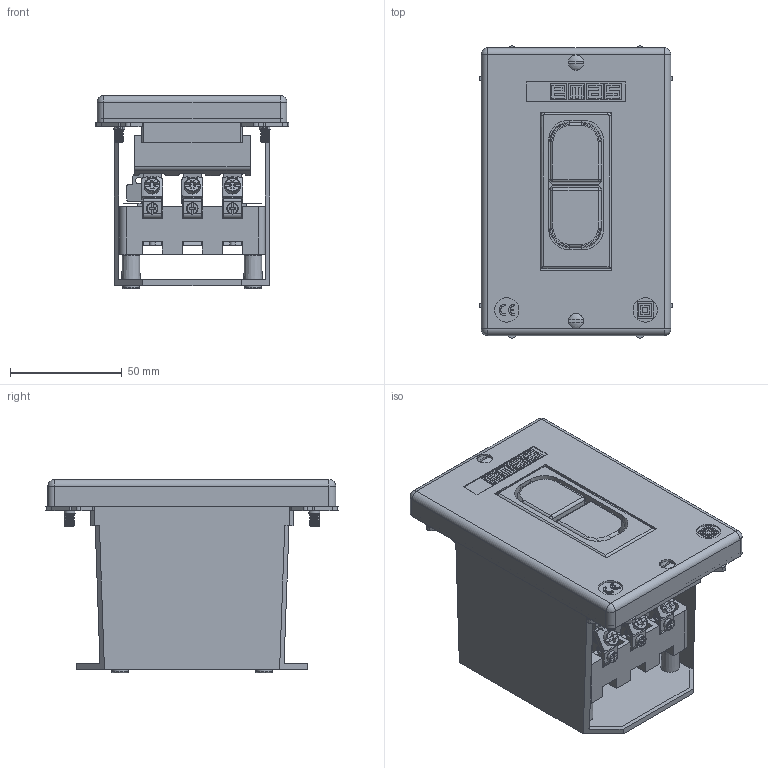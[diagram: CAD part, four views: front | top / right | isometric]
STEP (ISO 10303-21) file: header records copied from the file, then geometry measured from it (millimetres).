
FILE_DESCRIPTION((''),'2; 1');
FILE_NAME('','2026-03-27T11:28:13',(''),(''),'CST STEP Exporter V1.0','Unknown','');
FILE_SCHEMA(('CONFIG_CONTROL_DESIGN'));
Length unit declared in the file: metre
Assembly tree (109 placements, depth 2):
  (unnamed)
    (unnamed)
    (unnamed)
    (unnamed)
    (unnamed)
    (unnamed)
    (unnamed)
    (unnamed)
    (unnamed)
    (unnamed)
    (unnamed)
    (unnamed)
    (unnamed)
    (unnamed)
    (unnamed)
    (unnamed)
    (unnamed)
    (unnamed)
    (unnamed)
    (unnamed)
    (unnamed)
    (unnamed)
    (unnamed)
    (unnamed)
    (unnamed)
    (unnamed)
    (unnamed)
    (unnamed)
    (unnamed)
    (unnamed)
    (unnamed)
    (unnamed)
    (unnamed)
    (unnamed)
    (unnamed)
    (unnamed)
    (unnamed)
    (unnamed)
    (unnamed)
    (unnamed)
    (unnamed)
    (unnamed)
    (unnamed)
    (unnamed)
    (unnamed)
    (unnamed)
    (unnamed)
    (unnamed)
    (unnamed)
    (unnamed)
    (unnamed)
    (unnamed)
    (unnamed)
    (unnamed)
    (unnamed)
    (unnamed)
    (unnamed)
    (unnamed)
    (unnamed)
    (unnamed)
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Bounding box: 86.71 x 131.11 x 86.87 mm (x, y, z)
Surface area: 247663.9 mm2 (no closed solid volume)
Topology: 0 solids, 113 shells, 1052 faces, 3882 edges, 2846 vertices
Faces by surface type: plane 606, cylinder 312, cone 72, torus 33, bspline 17, sphere 12
Full cylindrical faces by diameter (mm): 2.2 x3, 2.5 x2, 2.6 x5, 2.8 x9, 3 x2, 3.1 x2, 3.22 x4, 3.3 x1, 3.5 x2, 4 x32, 4.8 x3, 5 x7, 5.1 x3, 5.7 x6, 6.9 x4, 7 x6, 7.3 x4, 7.4 x4, 10.9 x2
Entity records: 59516 total; most frequent: CARTESIAN_POINT 17813, DIRECTION 6570, ORIENTED_EDGE 5638, EDGE_CURVE 3662, VERTEX_POINT 2797, VECTOR 2306, LINE 2306, AXIS2_PLACEMENT_3D 2132
